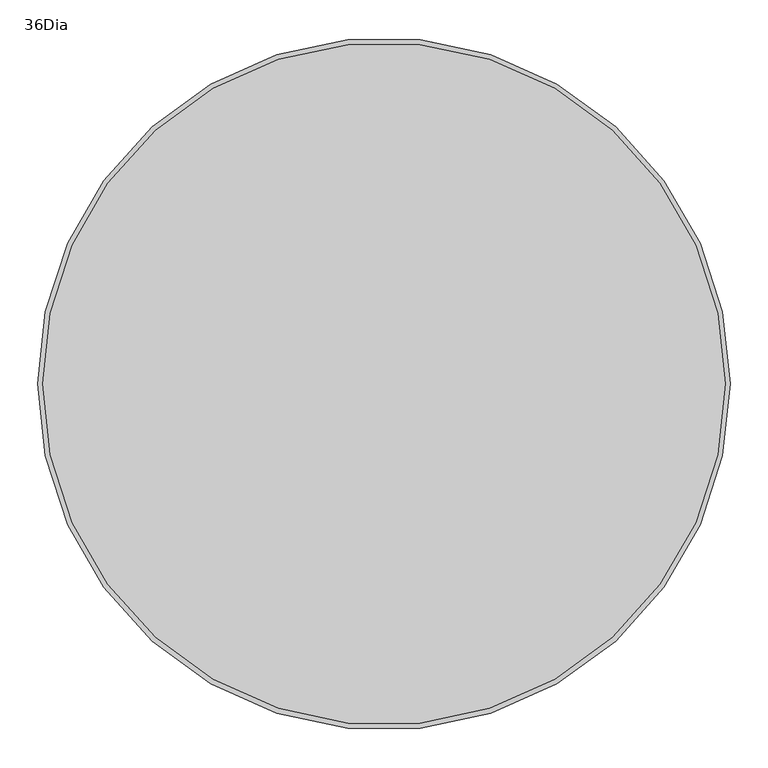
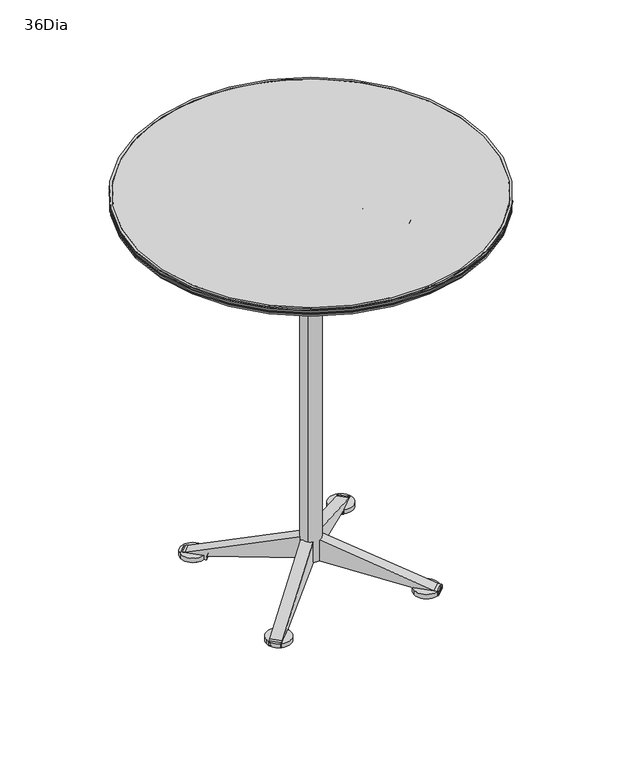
"""IFC4 building model written with IfcOpenShell, lengths in millimetres: furniture geometry, Coalesse_AM_Table_Conference_Ballet_Cafe : 36Dia."""

from ifc_helpers import new_model, si_unit, point, frame, frame_2d, origin, origin_with_axes, origin_2d, place, context, project, spatial, polyline, circle_curve, trimmed, segment, composite_curve, outline, extrude, source, transform, mapped, element, save
from ifc_brep_helpers import plane_surface, cylinder_surface, revolved_surface, advanced_brep


def furniture_36dia_0370dd3c(model_context):
    return source(origin(), model_context, "Body", "SolidModel", [
        extrude(outline(composite_curve([segment(polyline([(-37.2834365, 26.9246599), (-26.8661847, 37.3419116)]), True, "CONTINUOUS"), segment(trimmed(circle_curve(frame_2d((0.0745836, 10.4011432)), 38.1), [point((-26.8661847, 37.3419116))], [point((27.015352, 37.3419116))], False, "CARTESIAN"), True, "CONTINUOUS"), segment(polyline([(27.015352, 37.3419116), (38.9313594, 25.4259042)]), True, "CONTINUOUS"), segment(trimmed(circle_curve(frame_2d((13.4893466, -0.0161085)), 35.9804395), [point((38.9313594, 25.4259042))], [point((38.9313594, -25.4581212))], False, "CARTESIAN"), True, "CONTINUOUS"), segment(polyline([(38.9313594, -25.4581212), (27.015352, -37.3741286)]), True, "CONTINUOUS"), segment(trimmed(circle_curve(frame_2d((0.0745836, -10.4333602)), 38.1), [point((27.015352, -37.3741286))], [point((-26.8661847, -37.3741286))], False, "CARTESIAN"), True, "CONTINUOUS"), segment(polyline([(-26.8661847, -37.3741286), (-37.2834365, -26.9568769)]), True, "CONTINUOUS"), segment(trimmed(circle_curve(frame_2d((-10.3426681, -0.0161085)), 38.1), [point((-37.2834365, -26.9568769))], [point((-37.2834365, 26.9246599))], False, "CARTESIAN"), True, "CONTINUOUS")], self_intersect=False)), frame((0.0, 0.0, 942.7169247), z_axis=(0.0, 0.0, 1.0), x_axis=(1.0, 0.0, 0.0)), (0.0, 0.0, 1.0), 50.3081696),
        extrude(outline(composite_curve([segment(polyline([(-81.1409418, 49.3084633), (-49.5692956, 80.8801095)]), True, "CONTINUOUS"), segment(trimmed(circle_curve(frame_2d((0.0, 156.1108358)), 90.0931587), [point((-49.5692956, 80.8801095))], [point((49.871233, 81.0799264))], True, "CARTESIAN"), True, "CONTINUOUS"), segment(polyline([(49.871233, 81.0799264), (81.1309866, 49.8201728)]), True, "CONTINUOUS"), segment(trimmed(circle_curve(frame_2d((153.3620811, 0.0)), 87.7461145), [point((81.1309866, 49.8201728))], [point((81.7629451, -50.7241989))], True, "CARTESIAN"), True, "CONTINUOUS"), segment(polyline([(81.7629451, -50.7241989), (50.5881651, -81.8989789)]), True, "CONTINUOUS"), segment(trimmed(circle_curve(frame_2d((0.0, -154.7295322)), 88.6761069), [point((50.5881651, -81.8989789))], [point((-51.0893198, -82.2496499))], True, "CARTESIAN"), True, "CONTINUOUS"), segment(polyline([(-51.0893198, -82.2496499), (-82.3248918, -51.014078)]), True, "CONTINUOUS"), segment(trimmed(circle_curve(frame_2d((-153.9959305, 0.0)), 87.9725749), [point((-82.3248918, -51.014078))], [point((-81.1409418, 49.3084633))], True, "CARTESIAN"), True, "CONTINUOUS")], self_intersect=False)), frame((0.0, 0.0, 970.348073), z_axis=(0.0, 0.0, 1.0), x_axis=(1.0, 0.0, 0.0)), (0.0, 0.0, 1.0), 22.6770213),
        extrude(outline(composite_curve([segment(polyline([(114.3, 0.0), (115.2263736, -5.2537258)]), True, "CONTINUOUS"), segment(trimmed(circle_curve(frame_2d((109.4080133, -6.2796597)), 5.9081179), [point((115.2263736, -5.2537258))], [point((112.3666622, -11.3935872))], False, "CARTESIAN"), True, "CONTINUOUS"), segment(trimmed(circle_curve(frame_2d((-123.1481635, 395.6860679)), 470.2989248), [point((112.3666622, -11.3935872))], [point((-41.1216208, -67.404339))], False, "CARTESIAN"), True, "CONTINUOUS"), segment(trimmed(circle_curve(frame_2d((-123.1481635, 395.6860679)), 470.2989248), [point((-41.1216208, -67.404339))], [point((-66.3652264, -71.172344))], False, "CARTESIAN"), True, "CONTINUOUS"), segment(trimmed(circle_curve(frame_2d((-64.5887584, -85.7781231)), 14.7134164), [point((-66.3652264, -71.172344))], [point((-76.9601862, -77.8136775))], True, "CARTESIAN"), True, "CONTINUOUS"), segment(trimmed(circle_curve(frame_2d((-64.5887584, -85.7781231)), 14.7134164), [point((-76.9601862, -77.8136775))], [point((-79.0764227, -88.3456516))], True, "CARTESIAN"), True, "CONTINUOUS"), segment(trimmed(circle_curve(frame_2d((-82.4829244, -88.9493576)), 3.4595829), [point((-79.0764227, -88.3456516))], [point((-81.6450497, -92.3059452))], False, "CARTESIAN"), True, "CONTINUOUS"), segment(polyline([(-81.6450497, -92.3059452), (-160.9573766, -92.3059452)]), True, "CONTINUOUS"), segment(trimmed(circle_curve(frame_2d((-160.119502, -88.9493576)), 3.4595829), [point((-160.9573766, -92.3059452))], [point((-163.5260036, -88.3456516))], False, "CARTESIAN"), True, "CONTINUOUS"), segment(trimmed(circle_curve(frame_2d((-178.0136679, -85.7781231)), 14.7134164), [point((-163.5260036, -88.3456516))], [point((-165.6422401, -77.8136775))], True, "CARTESIAN"), True, "CONTINUOUS"), segment(trimmed(circle_curve(frame_2d((-178.0136679, -85.7781231)), 14.7134164), [point((-165.6422401, -77.8136775))], [point((-176.2372, -71.172344))], True, "CARTESIAN"), True, "CONTINUOUS"), segment(trimmed(circle_curve(frame_2d((-119.4542628, 395.6860679)), 470.2989248), [point((-176.2372, -71.172344))], [point((-201.4808056, -67.404339))], False, "CARTESIAN"), True, "CONTINUOUS"), segment(trimmed(circle_curve(frame_2d((-119.4542628, 395.6860679)), 470.2989248), [point((-201.4808056, -67.404339))], [point((-354.9690885, -11.3935872))], False, "CARTESIAN"), True, "CONTINUOUS"), segment(trimmed(circle_curve(frame_2d((-352.0104397, -6.2796597)), 5.9081179), [point((-354.9690885, -11.3935872))], [point((-357.8288, -5.2537258))], False, "CARTESIAN"), True, "CONTINUOUS"), segment(polyline([(-357.8288, -5.2537258), (-356.9024264, 0.0), (-242.6024263, 0.0)]), True, "CONTINUOUS"), segment(trimmed(circle_curve(frame_2d((-184.587638, 17.529313)), 60.6052183), [point((-242.6024263, 0.0))], [point((-195.8254097, -42.0249058))], True, "CARTESIAN"), True, "CONTINUOUS"), segment(trimmed(circle_curve(frame_2d((-133.7603939, 286.8867003)), 334.7161645), [point((-195.8254097, -42.0249058))], [point((-152.4418907, -47.3077229))], True, "CARTESIAN"), True, "CONTINUOUS"), segment(trimmed(circle_curve(frame_2d((-151.7916573, -35.6756582)), 11.6502245), [point((-152.4418907, -47.3077229))], [point((-142.023608, -42.0249058))], True, "CARTESIAN"), True, "CONTINUOUS"), segment(polyline([(-142.023608, -42.0249058), (-100.5788184, -42.0249058)]), True, "CONTINUOUS"), segment(trimmed(circle_curve(frame_2d((-90.810769, -35.6756582)), 11.6502245), [point((-100.5788184, -42.0249058))], [point((-90.1605356, -47.3077229))], True, "CARTESIAN"), True, "CONTINUOUS"), segment(trimmed(circle_curve(frame_2d((-108.8420324, 286.8867003)), 334.7161645), [point((-90.1605356, -47.3077229))], [point((-46.7770167, -42.0249058))], True, "CARTESIAN"), True, "CONTINUOUS"), segment(trimmed(circle_curve(frame_2d((-58.0147883, 17.529313)), 60.6052183), [point((-46.7770167, -42.0249058))], [point((0.0, 0.0))], True, "CARTESIAN"), True, "CONTINUOUS"), segment(polyline([(0.0, 0.0), (114.3, 0.0)]), True, "CONTINUOUS")], self_intersect=False)), frame((-101.4283173, 70.1175035, 1035.05), z_axis=(0.7071067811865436, 0.7071067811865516, 0.0), x_axis=(-0.7071067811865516, 0.7071067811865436, 0.0)), (0.0, 0.0, 1.0), 44.2801776),
        extrude(outline(composite_curve([segment(polyline([(114.3, 0.0), (115.2263736, -5.2537258)]), True, "CONTINUOUS"), segment(trimmed(circle_curve(frame_2d((109.4080133, -6.2796597)), 5.9081179), [point((115.2263736, -5.2537258))], [point((112.3666622, -11.3935872))], False, "CARTESIAN"), True, "CONTINUOUS"), segment(trimmed(circle_curve(frame_2d((-123.1481635, 395.6860679)), 470.2989248), [point((112.3666622, -11.3935872))], [point((-41.1216208, -67.404339))], False, "CARTESIAN"), True, "CONTINUOUS"), segment(trimmed(circle_curve(frame_2d((-123.1481635, 395.6860679)), 470.2989248), [point((-41.1216208, -67.404339))], [point((-66.3652264, -71.172344))], False, "CARTESIAN"), True, "CONTINUOUS"), segment(trimmed(circle_curve(frame_2d((-64.5887584, -85.7781231)), 14.7134164), [point((-66.3652264, -71.172344))], [point((-76.9601862, -77.8136775))], True, "CARTESIAN"), True, "CONTINUOUS"), segment(trimmed(circle_curve(frame_2d((-64.5887584, -85.7781231)), 14.7134164), [point((-76.9601862, -77.8136775))], [point((-79.0764227, -88.3456516))], True, "CARTESIAN"), True, "CONTINUOUS"), segment(trimmed(circle_curve(frame_2d((-82.4829244, -88.9493576)), 3.4595829), [point((-79.0764227, -88.3456516))], [point((-81.6450497, -92.3059452))], False, "CARTESIAN"), True, "CONTINUOUS"), segment(polyline([(-81.6450497, -92.3059452), (-160.9573766, -92.3059452)]), True, "CONTINUOUS"), segment(trimmed(circle_curve(frame_2d((-160.119502, -88.9493576)), 3.4595829), [point((-160.9573766, -92.3059452))], [point((-163.5260036, -88.3456516))], False, "CARTESIAN"), True, "CONTINUOUS"), segment(trimmed(circle_curve(frame_2d((-178.0136679, -85.7781231)), 14.7134164), [point((-163.5260036, -88.3456516))], [point((-165.6422401, -77.8136775))], True, "CARTESIAN"), True, "CONTINUOUS"), segment(trimmed(circle_curve(frame_2d((-178.0136679, -85.7781231)), 14.7134164), [point((-165.6422401, -77.8136775))], [point((-176.2372, -71.172344))], True, "CARTESIAN"), True, "CONTINUOUS"), segment(trimmed(circle_curve(frame_2d((-119.4542628, 395.6860679)), 470.2989248), [point((-176.2372, -71.172344))], [point((-201.4808056, -67.404339))], False, "CARTESIAN"), True, "CONTINUOUS"), segment(trimmed(circle_curve(frame_2d((-119.4542628, 395.6860679)), 470.2989248), [point((-201.4808056, -67.404339))], [point((-354.9690885, -11.3935872))], False, "CARTESIAN"), True, "CONTINUOUS"), segment(trimmed(circle_curve(frame_2d((-352.0104397, -6.2796597)), 5.9081179), [point((-354.9690885, -11.3935872))], [point((-357.8288, -5.2537258))], False, "CARTESIAN"), True, "CONTINUOUS"), segment(polyline([(-357.8288, -5.2537258), (-356.9024264, 0.0), (-242.6024263, 0.0)]), True, "CONTINUOUS"), segment(trimmed(circle_curve(frame_2d((-184.587638, 17.529313)), 60.6052183), [point((-242.6024263, 0.0))], [point((-195.8254097, -42.0249058))], True, "CARTESIAN"), True, "CONTINUOUS"), segment(trimmed(circle_curve(frame_2d((-133.7603939, 286.8867003)), 334.7161645), [point((-195.8254097, -42.0249058))], [point((-152.4418907, -47.3077229))], True, "CARTESIAN"), True, "CONTINUOUS"), segment(trimmed(circle_curve(frame_2d((-151.7916573, -35.6756582)), 11.6502245), [point((-152.4418907, -47.3077229))], [point((-142.023608, -42.0249058))], True, "CARTESIAN"), True, "CONTINUOUS"), segment(polyline([(-142.023608, -42.0249058), (-100.5788184, -42.0249058)]), True, "CONTINUOUS"), segment(trimmed(circle_curve(frame_2d((-90.810769, -35.6756582)), 11.6502245), [point((-100.5788184, -42.0249058))], [point((-90.1605356, -47.3077229))], True, "CARTESIAN"), True, "CONTINUOUS"), segment(trimmed(circle_curve(frame_2d((-108.8420324, 286.8867003)), 334.7161645), [point((-90.1605356, -47.3077229))], [point((-46.7770167, -42.0249058))], True, "CARTESIAN"), True, "CONTINUOUS"), segment(trimmed(circle_curve(frame_2d((-58.0147883, 17.529313)), 60.6052183), [point((-46.7770167, -42.0249058))], [point((0.0, 0.0))], True, "CARTESIAN"), True, "CONTINUOUS"), segment(polyline([(0.0, 0.0), (114.3, 0.0)]), True, "CONTINUOUS")], self_intersect=False)), frame((-70.1175035, -101.4283173, 1035.05), z_axis=(-0.707106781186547, 0.7071067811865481, 0.0), x_axis=(-0.7071067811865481, -0.707106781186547, 0.0)), (0.0, 0.0, 1.0), 44.2801776),
        extrude(outline(composite_curve([segment(trimmed(circle_curve(frame_2d((-194.715793, 197.3207687)), 31.75), [point((-226.465793, 197.3207687))], [point((-162.965793, 197.3207687))], False, "CARTESIAN"), True, "CONTINUOUS"), segment(trimmed(circle_curve(frame_2d((-194.715793, 197.3207687)), 31.75), [point((-162.965793, 197.3207687))], [point((-226.465793, 197.3207687))], False, "CARTESIAN"), True, "CONTINUOUS")], self_intersect=False)), frame((0.0, 0.0, 4.2904479), z_axis=(0.0, 0.0, 1.0), x_axis=(1.0, 0.0, 0.0)), (0.0, 0.0, 1.0), 11.3833531),
        extrude(outline(composite_curve([segment(trimmed(circle_curve(frame_2d((191.7194605, 196.5270187)), 31.75), [point((159.9694605, 196.5270187))], [point((223.4694605, 196.5270187))], False, "CARTESIAN"), True, "CONTINUOUS"), segment(trimmed(circle_curve(frame_2d((191.7194605, 196.5270187)), 31.75), [point((223.4694605, 196.5270187))], [point((159.9694605, 196.5270187))], False, "CARTESIAN"), True, "CONTINUOUS")], self_intersect=False)), frame((0.0, 0.0, 4.2904479), z_axis=(0.0, 0.0, 1.0), x_axis=(1.0, 0.0, 0.0)), (0.0, 0.0, 1.0), 11.3833531),
        extrude(outline(composite_curve([segment(trimmed(circle_curve(frame_2d((-194.715793, -191.2787692)), 31.75), [point((-226.465793, -191.2787692))], [point((-162.965793, -191.2787692))], False, "CARTESIAN"), True, "CONTINUOUS"), segment(trimmed(circle_curve(frame_2d((-194.715793, -191.2787692)), 31.75), [point((-162.965793, -191.2787692))], [point((-226.465793, -191.2787692))], False, "CARTESIAN"), True, "CONTINUOUS")], self_intersect=False)), frame((0.0, 0.0, 4.2904479), z_axis=(0.0, 0.0, 1.0), x_axis=(1.0, 0.0, 0.0)), (0.0, 0.0, 1.0), 11.3833531),
        extrude(outline(composite_curve([segment(trimmed(circle_curve(frame_2d((191.7194605, -190.4850192)), 31.75), [point((159.9694605, -190.4850192))], [point((223.4694605, -190.4850192))], False, "CARTESIAN"), True, "CONTINUOUS"), segment(trimmed(circle_curve(frame_2d((191.7194605, -190.4850192)), 31.75), [point((223.4694605, -190.4850192))], [point((159.9694605, -190.4850192))], False, "CARTESIAN"), True, "CONTINUOUS")], self_intersect=False)), frame((0.0, 0.0, 4.2904479), z_axis=(0.0, 0.0, 1.0), x_axis=(1.0, 0.0, 0.0)), (0.0, 0.0, 1.0), 11.3833531),
        extrude(outline(composite_curve([segment(polyline([(-57.749273, 0.0), (0.0, 0.0), (-90.9931074, -269.8641919), (-92.3030079, -279.1846177)]), True, "CONTINUOUS"), segment(trimmed(circle_curve(frame_2d((-93.9206951, -278.9572666)), 1.6335852), [point((-92.3030079, -279.1846177))], [point((-93.8206014, -280.5877823))], False, "CARTESIAN"), True, "CONTINUOUS"), segment(trimmed(circle_curve(frame_2d((-95.8523928, -247.4901147)), 33.1599725), [point((-93.8206014, -280.5877823))], [point((-101.682402, -280.1335639))], False, "CARTESIAN"), True, "CONTINUOUS"), segment(trimmed(circle_curve(frame_2d((-101.2796868, -277.8786768)), 2.2905666), [point((-101.682402, -280.1335639))], [point((-103.5674671, -277.7657306))], False, "CARTESIAN"), True, "CONTINUOUS"), segment(polyline([(-103.5674671, -277.7657306), (-103.5674671, -222.4322812)]), True, "CONTINUOUS"), segment(trimmed(circle_curve(frame_2d((-100.6154331, -221.9840334)), 2.9858719), [point((-103.5674671, -222.4322812))], [point((-100.2998684, -219.0148838))], False, "CARTESIAN"), True, "CONTINUOUS"), segment(trimmed(circle_curve(frame_2d((-98.3053249, -200.2482144)), 18.872363), [point((-100.2998684, -219.0148838))], [point((-94.5016021, -218.7332835))], True, "CARTESIAN"), True, "CONTINUOUS"), segment(trimmed(circle_curve(frame_2d((-95.1495986, -215.5841949)), 3.2150673), [point((-94.5016021, -218.7332835))], [point((-91.9741141, -216.0871422))], True, "CARTESIAN"), True, "CONTINUOUS"), segment(polyline([(-91.9741141, -216.0871422), (-57.749273, 0.0)]), True, "CONTINUOUS")], self_intersect=False)), frame((-23.5273141, 7.7834997, 107.857915), z_axis=(0.7071067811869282, 0.707106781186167, 0.0), x_axis=(0.0, 0.0, 1.0)), (0.0, 0.0, 1.0), 29.2174476),
        extrude(outline(composite_curve([segment(polyline([(-57.749273, 44.2801775), (-91.9741141, 260.3673198)]), True, "CONTINUOUS"), segment(trimmed(circle_curve(frame_2d((-95.1495986, 259.8643724)), 3.2150673), [point((-91.9741141, 260.3673198))], [point((-94.5016021, 263.013461))], True, "CARTESIAN"), True, "CONTINUOUS"), segment(trimmed(circle_curve(frame_2d((-98.3053249, 244.5283919)), 18.872363), [point((-94.5016021, 263.013461))], [point((-100.2998684, 263.2950613))], True, "CARTESIAN"), True, "CONTINUOUS"), segment(trimmed(circle_curve(frame_2d((-100.6154331, 266.2642109)), 2.9858719), [point((-100.2998684, 263.2950613))], [point((-103.5674671, 266.7124587))], False, "CARTESIAN"), True, "CONTINUOUS"), segment(polyline([(-103.5674671, 266.7124587), (-103.5674671, 322.0459081)]), True, "CONTINUOUS"), segment(trimmed(circle_curve(frame_2d((-101.2796868, 322.1588543)), 2.2905666), [point((-103.5674671, 322.0459081))], [point((-101.682402, 324.4137415))], False, "CARTESIAN"), True, "CONTINUOUS"), segment(trimmed(circle_curve(frame_2d((-95.8523928, 291.7702923)), 33.1599725), [point((-101.682402, 324.4137415))], [point((-93.8206014, 324.8679598))], False, "CARTESIAN"), True, "CONTINUOUS"), segment(trimmed(circle_curve(frame_2d((-93.9206951, 323.2374442)), 1.6335852), [point((-93.8206014, 324.8679598))], [point((-92.3030079, 323.4647953))], False, "CARTESIAN"), True, "CONTINUOUS"), segment(polyline([(-92.3030079, 323.4647953), (-90.9931074, 314.1443694), (0.0, 44.2801775), (-57.749273, 44.2801775)]), True, "CONTINUOUS")], self_intersect=False)), frame((-23.5273141, 7.7834997, 107.857915), z_axis=(0.7071067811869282, 0.707106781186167, 0.0), x_axis=(0.0, 0.0, 1.0)), (0.0, 0.0, 1.0), 29.2174476),
        extrude(outline(composite_curve([segment(polyline([(-57.749273, 0.0), (0.0, 0.0), (-90.9931074, -269.8641919), (-92.3030079, -279.1846177)]), True, "CONTINUOUS"), segment(trimmed(circle_curve(frame_2d((-93.9206951, -278.9572666)), 1.6335852), [point((-92.3030079, -279.1846177))], [point((-93.8206014, -280.5877823))], False, "CARTESIAN"), True, "CONTINUOUS"), segment(trimmed(circle_curve(frame_2d((-95.8523928, -247.4901147)), 33.1599725), [point((-93.8206014, -280.5877823))], [point((-101.682402, -280.1335639))], False, "CARTESIAN"), True, "CONTINUOUS"), segment(trimmed(circle_curve(frame_2d((-101.2796868, -277.8786768)), 2.2905666), [point((-101.682402, -280.1335639))], [point((-103.5674671, -277.7657306))], False, "CARTESIAN"), True, "CONTINUOUS"), segment(polyline([(-103.5674671, -277.7657306), (-103.5674671, -222.4322812)]), True, "CONTINUOUS"), segment(trimmed(circle_curve(frame_2d((-100.6154331, -221.9840334)), 2.9858719), [point((-103.5674671, -222.4322812))], [point((-100.2998684, -219.0148838))], False, "CARTESIAN"), True, "CONTINUOUS"), segment(trimmed(circle_curve(frame_2d((-98.3053249, -200.2482144)), 18.872363), [point((-100.2998684, -219.0148838))], [point((-94.5016021, -218.7332835))], True, "CARTESIAN"), True, "CONTINUOUS"), segment(trimmed(circle_curve(frame_2d((-95.1495986, -215.5841949)), 3.2150673), [point((-94.5016021, -218.7332835))], [point((-91.9741141, -216.0871422))], True, "CARTESIAN"), True, "CONTINUOUS"), segment(polyline([(-91.9741141, -216.0871422), (-57.749273, 0.0)]), True, "CONTINUOUS")], self_intersect=False)), frame((-7.7834997, -23.5273141, 107.857915), z_axis=(-0.7071067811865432, 0.7071067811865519, 0.0), x_axis=(0.0, 0.0, 1.0)), (0.0, 0.0, 1.0), 29.2174476),
        extrude(outline(composite_curve([segment(polyline([(-57.749273, 44.2801775), (-91.9741141, 260.3673198)]), True, "CONTINUOUS"), segment(trimmed(circle_curve(frame_2d((-95.1495986, 259.8643724)), 3.2150673), [point((-91.9741141, 260.3673198))], [point((-94.5016021, 263.013461))], True, "CARTESIAN"), True, "CONTINUOUS"), segment(trimmed(circle_curve(frame_2d((-98.3053249, 244.5283919)), 18.872363), [point((-94.5016021, 263.013461))], [point((-100.2998684, 263.2950613))], True, "CARTESIAN"), True, "CONTINUOUS"), segment(trimmed(circle_curve(frame_2d((-100.6154331, 266.2642109)), 2.9858719), [point((-100.2998684, 263.2950613))], [point((-103.5674671, 266.7124587))], False, "CARTESIAN"), True, "CONTINUOUS"), segment(polyline([(-103.5674671, 266.7124587), (-103.5674671, 322.0459081)]), True, "CONTINUOUS"), segment(trimmed(circle_curve(frame_2d((-101.2796868, 322.1588543)), 2.2905666), [point((-103.5674671, 322.0459081))], [point((-101.682402, 324.4137415))], False, "CARTESIAN"), True, "CONTINUOUS"), segment(trimmed(circle_curve(frame_2d((-95.8523928, 291.7702923)), 33.1599725), [point((-101.682402, 324.4137415))], [point((-93.8206014, 324.8679598))], False, "CARTESIAN"), True, "CONTINUOUS"), segment(trimmed(circle_curve(frame_2d((-93.9206951, 323.2374442)), 1.6335852), [point((-93.8206014, 324.8679598))], [point((-92.3030079, 323.4647953))], False, "CARTESIAN"), True, "CONTINUOUS"), segment(polyline([(-92.3030079, 323.4647953), (-90.9931074, 314.1443694), (0.0, 44.2801775), (-57.749273, 44.2801775)]), True, "CONTINUOUS")], self_intersect=False)), frame((-7.7834997, -23.5273141, 107.857915), z_axis=(-0.7071067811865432, 0.7071067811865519, 0.0), x_axis=(0.0, 0.0, 1.0)), (0.0, 0.0, 1.0), 29.2174476),
        extrude(outline(composite_curve([segment(polyline([(-57.749273, 0.0), (0.0, 0.0), (-90.9931074, -269.8641919), (-92.3030079, -279.1846177)]), True, "CONTINUOUS"), segment(trimmed(circle_curve(frame_2d((-93.9206951, -278.9572666)), 1.6335852), [point((-92.3030079, -279.1846177))], [point((-93.8206014, -280.5877823))], False, "CARTESIAN"), True, "CONTINUOUS"), segment(trimmed(circle_curve(frame_2d((-95.8523928, -247.4901147)), 33.1599725), [point((-93.8206014, -280.5877823))], [point((-101.682402, -280.1335639))], False, "CARTESIAN"), True, "CONTINUOUS"), segment(trimmed(circle_curve(frame_2d((-101.2796868, -277.8786768)), 2.2905666), [point((-101.682402, -280.1335639))], [point((-103.5674671, -277.7657306))], False, "CARTESIAN"), True, "CONTINUOUS"), segment(polyline([(-103.5674671, -277.7657306), (-103.5674671, -222.4322812)]), True, "CONTINUOUS"), segment(trimmed(circle_curve(frame_2d((-100.6154331, -221.9840334)), 2.9858719), [point((-103.5674671, -222.4322812))], [point((-100.2998684, -219.0148838))], False, "CARTESIAN"), True, "CONTINUOUS"), segment(trimmed(circle_curve(frame_2d((-98.3053249, -200.2482144)), 18.872363), [point((-100.2998684, -219.0148838))], [point((-94.5016021, -218.7332835))], True, "CARTESIAN"), True, "CONTINUOUS"), segment(trimmed(circle_curve(frame_2d((-95.1495986, -215.5841949)), 3.2150673), [point((-94.5016021, -218.7332835))], [point((-91.9741141, -216.0871422))], True, "CARTESIAN"), True, "CONTINUOUS"), segment(polyline([(-91.9741141, -216.0871422), (-57.749273, 0.0)]), True, "CONTINUOUS")], self_intersect=False)), frame((-23.5273141, 7.7834997, 107.857915), z_axis=(0.7071067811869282, 0.707106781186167, 0.0), x_axis=(0.0, 0.0, 1.0)), (0.0, 0.0, 1.0), 29.2174476),
        extrude(outline(composite_curve([segment(polyline([(-57.749273, 44.2801775), (-91.9741141, 260.3673198)]), True, "CONTINUOUS"), segment(trimmed(circle_curve(frame_2d((-95.1495986, 259.8643724)), 3.2150673), [point((-91.9741141, 260.3673198))], [point((-94.5016021, 263.013461))], True, "CARTESIAN"), True, "CONTINUOUS"), segment(trimmed(circle_curve(frame_2d((-98.3053249, 244.5283919)), 18.872363), [point((-94.5016021, 263.013461))], [point((-100.2998684, 263.2950613))], True, "CARTESIAN"), True, "CONTINUOUS"), segment(trimmed(circle_curve(frame_2d((-100.6154331, 266.2642109)), 2.9858719), [point((-100.2998684, 263.2950613))], [point((-103.5674671, 266.7124587))], False, "CARTESIAN"), True, "CONTINUOUS"), segment(polyline([(-103.5674671, 266.7124587), (-103.5674671, 322.0459081)]), True, "CONTINUOUS"), segment(trimmed(circle_curve(frame_2d((-101.2796868, 322.1588543)), 2.2905666), [point((-103.5674671, 322.0459081))], [point((-101.682402, 324.4137415))], False, "CARTESIAN"), True, "CONTINUOUS"), segment(trimmed(circle_curve(frame_2d((-95.8523928, 291.7702923)), 33.1599725), [point((-101.682402, 324.4137415))], [point((-93.8206014, 324.8679598))], False, "CARTESIAN"), True, "CONTINUOUS"), segment(trimmed(circle_curve(frame_2d((-93.9206951, 323.2374442)), 1.6335852), [point((-93.8206014, 324.8679598))], [point((-92.3030079, 323.4647953))], False, "CARTESIAN"), True, "CONTINUOUS"), segment(polyline([(-92.3030079, 323.4647953), (-90.9931074, 314.1443694), (0.0, 44.2801775), (-57.749273, 44.2801775)]), True, "CONTINUOUS")], self_intersect=False)), frame((-23.5273141, 7.7834997, 107.857915), z_axis=(0.7071067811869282, 0.707106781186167, 0.0), x_axis=(0.0, 0.0, 1.0)), (0.0, 0.0, 1.0), 29.2174476),
        extrude(outline(composite_curve([segment(polyline([(-57.749273, 0.0), (0.0, 0.0), (-90.9931074, -269.8641919), (-92.3030079, -279.1846177)]), True, "CONTINUOUS"), segment(trimmed(circle_curve(frame_2d((-93.9206951, -278.9572666)), 1.6335852), [point((-92.3030079, -279.1846177))], [point((-93.8206014, -280.5877823))], False, "CARTESIAN"), True, "CONTINUOUS"), segment(trimmed(circle_curve(frame_2d((-95.8523928, -247.4901147)), 33.1599725), [point((-93.8206014, -280.5877823))], [point((-101.682402, -280.1335639))], False, "CARTESIAN"), True, "CONTINUOUS"), segment(trimmed(circle_curve(frame_2d((-101.2796868, -277.8786768)), 2.2905666), [point((-101.682402, -280.1335639))], [point((-103.5674671, -277.7657306))], False, "CARTESIAN"), True, "CONTINUOUS"), segment(polyline([(-103.5674671, -277.7657306), (-103.5674671, -222.4322812)]), True, "CONTINUOUS"), segment(trimmed(circle_curve(frame_2d((-100.6154331, -221.9840334)), 2.9858719), [point((-103.5674671, -222.4322812))], [point((-100.2998684, -219.0148838))], False, "CARTESIAN"), True, "CONTINUOUS"), segment(trimmed(circle_curve(frame_2d((-98.3053249, -200.2482144)), 18.872363), [point((-100.2998684, -219.0148838))], [point((-94.5016021, -218.7332835))], True, "CARTESIAN"), True, "CONTINUOUS"), segment(trimmed(circle_curve(frame_2d((-95.1495986, -215.5841949)), 3.2150673), [point((-94.5016021, -218.7332835))], [point((-91.9741141, -216.0871422))], True, "CARTESIAN"), True, "CONTINUOUS"), segment(polyline([(-91.9741141, -216.0871422), (-57.749273, 0.0)]), True, "CONTINUOUS")], self_intersect=False)), frame((-7.7834997, -23.5273141, 107.857915), z_axis=(-0.7071067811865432, 0.7071067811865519, 0.0), x_axis=(0.0, 0.0, 1.0)), (0.0, 0.0, 1.0), 29.2174476),
        extrude(outline(composite_curve([segment(polyline([(-57.749273, 44.2801775), (-91.9741141, 260.3673198)]), True, "CONTINUOUS"), segment(trimmed(circle_curve(frame_2d((-95.1495986, 259.8643724)), 3.2150673), [point((-91.9741141, 260.3673198))], [point((-94.5016021, 263.013461))], True, "CARTESIAN"), True, "CONTINUOUS"), segment(trimmed(circle_curve(frame_2d((-98.3053249, 244.5283919)), 18.872363), [point((-94.5016021, 263.013461))], [point((-100.2998684, 263.2950613))], True, "CARTESIAN"), True, "CONTINUOUS"), segment(trimmed(circle_curve(frame_2d((-100.6154331, 266.2642109)), 2.9858719), [point((-100.2998684, 263.2950613))], [point((-103.5674671, 266.7124587))], False, "CARTESIAN"), True, "CONTINUOUS"), segment(polyline([(-103.5674671, 266.7124587), (-103.5674671, 322.0459081)]), True, "CONTINUOUS"), segment(trimmed(circle_curve(frame_2d((-101.2796868, 322.1588543)), 2.2905666), [point((-103.5674671, 322.0459081))], [point((-101.682402, 324.4137415))], False, "CARTESIAN"), True, "CONTINUOUS"), segment(trimmed(circle_curve(frame_2d((-95.8523928, 291.7702923)), 33.1599725), [point((-101.682402, 324.4137415))], [point((-93.8206014, 324.8679598))], False, "CARTESIAN"), True, "CONTINUOUS"), segment(trimmed(circle_curve(frame_2d((-93.9206951, 323.2374442)), 1.6335852), [point((-93.8206014, 324.8679598))], [point((-92.3030079, 323.4647953))], False, "CARTESIAN"), True, "CONTINUOUS"), segment(polyline([(-92.3030079, 323.4647953), (-90.9931074, 314.1443694), (0.0, 44.2801775), (-57.749273, 44.2801775)]), True, "CONTINUOUS")], self_intersect=False)), frame((-7.7834997, -23.5273141, 107.857915), z_axis=(-0.7071067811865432, 0.7071067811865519, 0.0), x_axis=(0.0, 0.0, 1.0)), (0.0, 0.0, 1.0), 29.2174476),
        extrude(outline(composite_curve([segment(trimmed(circle_curve(frame_2d((192.2336051, -190.6461051)), 25.4), [point((174.2730929, -208.6066174))], [point((210.1941174, -172.6855929))], False, "CARTESIAN"), True, "CONTINUOUS"), segment(trimmed(circle_curve(frame_2d((192.2336051, -190.6461051)), 25.4), [point((210.1941174, -172.6855929))], [point((174.2730929, -208.6066174))], False, "CARTESIAN"), True, "CONTINUOUS")], self_intersect=False)), origin_with_axes(), (0.0, 0.0, 1.0), 4.2904479),
        extrude(outline(composite_curve([segment(trimmed(circle_curve(frame_2d((192.2336051, 196.9961051)), 25.4), [point((174.2730929, 179.0355929))], [point((210.1941174, 214.9566174))], False, "CARTESIAN"), True, "CONTINUOUS"), segment(trimmed(circle_curve(frame_2d((192.2336051, 196.9961051)), 25.4), [point((210.1941174, 214.9566174))], [point((174.2730929, 179.0355929))], False, "CARTESIAN"), True, "CONTINUOUS")], self_intersect=False)), origin_with_axes(), (0.0, 0.0, 1.0), 4.2904479),
        extrude(outline(composite_curve([segment(trimmed(circle_curve(frame_2d((-194.6148551, -191.4398551)), 25.4), [point((-212.5753674, -209.4003674))], [point((-176.6543429, -173.4793429))], False, "CARTESIAN"), True, "CONTINUOUS"), segment(trimmed(circle_curve(frame_2d((-194.6148551, -191.4398551)), 25.4), [point((-176.6543429, -173.4793429))], [point((-212.5753674, -209.4003674))], False, "CARTESIAN"), True, "CONTINUOUS")], self_intersect=False)), origin_with_axes(), (0.0, 0.0, 1.0), 4.2904479),
        extrude(outline(composite_curve([segment(trimmed(circle_curve(frame_2d((-194.2179801, 197.3929801)), 25.4), [point((-212.1784924, 179.4324679))], [point((-176.2574679, 215.3534924))], False, "CARTESIAN"), True, "CONTINUOUS"), segment(trimmed(circle_curve(frame_2d((-194.2179801, 197.3929801)), 25.4), [point((-176.2574679, 215.3534924))], [point((-212.1784924, 179.4324679))], False, "CARTESIAN"), True, "CONTINUOUS")], self_intersect=False)), origin_with_axes(), (0.0, 0.0, 1.0), 4.2904479),
        extrude(outline(composite_curve([segment(trimmed(circle_curve(frame_2d((1.04e-05, -1.04e-05)), 25.3999999), [point((-17.9605018, -17.9605225))], [point((17.9605225, 17.9605018))], False, "CARTESIAN"), True, "CONTINUOUS"), segment(trimmed(circle_curve(frame_2d((1.04e-05, -1.04e-05)), 25.3999999), [point((17.9605225, 17.9605018))], [point((-17.9605018, -17.9605225))], False, "CARTESIAN"), True, "CONTINUOUS")], self_intersect=False)), frame((0.0, 0.0, 50.8000015), z_axis=(0.0, 0.0, 1.0), x_axis=(1.0, 0.0, 0.0)), (0.0, 0.0, 1.0), 891.9440533),
        advanced_brep(
        [(-450.85, 0.0, 1054.1), (450.85, 0.0, 1054.1), (450.85, 0.0, 1035.05), (-450.85, 0.0, 1035.05), (-457.3841036, 0.0, 1050.9467693), (457.3841036, 0.0, 1050.9467693), (457.3841036, 0.0, 1054.1), (-457.3841036, 0.0, 1054.1), (-454.2316012, 0.0, 1049.340489), (454.2316012, 0.0, 1049.340489), (-457.3531952, 0.0, 1047.7499574), (457.3531952, 0.0, 1047.7499574), (-454.2274029, 0.0, 1046.1572867), (454.2274029, 0.0, 1046.1572867), (-457.378347, 0.0, 1044.5518005), (457.378347, 0.0, 1044.5518005), (-454.2247106, 0.0, 1043.0136693), (454.2247106, 0.0, 1043.0136693), (-457.4010759, 0.0, 1041.4246637), (457.4010759, 0.0, 1041.4246637), (-454.2312403, 0.0, 1039.8095518), (454.2312403, 0.0, 1039.8095518), (-457.4010759, 0.0, 1038.2238127), (457.4010759, 0.0, 1038.2238127), (-457.4010759, 0.0, 1035.05), (457.4010759, 0.0, 1035.05)],
        [
            (0, 1, circle_curve(frame((0.0, 0.0, 1054.1), z_axis=(0.0, 0.0, 1.0), x_axis=(1.0, 0.0, 0.0)), 450.85)),
            (1, 2),
            (2, 3, circle_curve(frame((0.0, 0.0, 1035.05), z_axis=(0.0, 0.0, -1.0), x_axis=(1.0, 0.0, 0.0)), 450.85)),
            (3, 0),
            (4, 5, circle_curve(frame((0.0, 0.0, 1050.9467693), z_axis=(0.0, 0.0, 1.0), x_axis=(1.0, 0.0, 0.0)), 457.3841036)),
            (5, 6),
            (6, 7, circle_curve(frame((0.0, 0.0, 1054.1), z_axis=(0.0, 0.0, -1.0), x_axis=(1.0, 0.0, 0.0)), 457.3841036)),
            (7, 4),
            (8, 9, circle_curve(frame((0.0, 0.0, 1049.340489), z_axis=(0.0, 0.0, 1.0), x_axis=(1.0, 0.0, 0.0)), 454.2316012)),
            (9, 5),
            (4, 8),
            (10, 11, circle_curve(frame((0.0, 0.0, 1047.7499574), z_axis=(0.0, 0.0, 1.0), x_axis=(1.0, 0.0, 0.0)), 457.3531952)),
            (11, 9),
            (8, 10),
            (12, 13, circle_curve(frame((0.0, 0.0, 1046.1572867), z_axis=(0.0, 0.0, 1.0), x_axis=(1.0, 0.0, 0.0)), 454.2274029)),
            (13, 11),
            (10, 12),
            (14, 15, circle_curve(frame((0.0, 0.0, 1044.5518005), z_axis=(0.0, 0.0, 1.0), x_axis=(1.0, 0.0, 0.0)), 457.378347)),
            (15, 13),
            (12, 14),
            (16, 17, circle_curve(frame((0.0, 0.0, 1043.0136693), z_axis=(0.0, 0.0, 1.0), x_axis=(1.0, 0.0, 0.0)), 454.2247106)),
            (17, 15),
            (14, 16),
            (18, 19, circle_curve(frame((0.0, 0.0, 1041.4246637), z_axis=(0.0, 0.0, 1.0), x_axis=(1.0, 0.0, 0.0)), 457.4010759)),
            (19, 17),
            (16, 18),
            (20, 21, circle_curve(frame((0.0, 0.0, 1039.8095518), z_axis=(0.0, 0.0, 1.0), x_axis=(1.0, 0.0, 0.0)), 454.2312403)),
            (21, 19),
            (18, 20),
            (22, 23, circle_curve(frame((0.0, 0.0, 1038.2238127), z_axis=(0.0, 0.0, 1.0), x_axis=(1.0, 0.0, 0.0)), 457.4010759)),
            (23, 21),
            (20, 22),
            (24, 25, circle_curve(frame((0.0, 0.0, 1035.05), z_axis=(0.0, 0.0, 1.0), x_axis=(1.0, 0.0, 0.0)), 457.4010759)),
            (25, 23),
            (22, 24),
            (1, 0, circle_curve(frame((0.0, 0.0, 1054.1), z_axis=(0.0, 0.0, 1.0), x_axis=(-1.0, 0.0, 0.0)), 450.85)),
            (3, 2, circle_curve(frame((0.0, 0.0, 1035.05), z_axis=(0.0, 0.0, -1.0), x_axis=(-1.0, 0.0, 0.0)), 450.85)),
            (6, 7, circle_curve(frame((0.0, 0.0, 1054.1), z_axis=(0.0, 0.0, 1.0), x_axis=(-1.0, 0.0, 0.0)), 457.3841036)),
            (5, 4, circle_curve(frame((0.0, 0.0, 1050.9467693), z_axis=(0.0, 0.0, 1.0), x_axis=(-1.0, 0.0, 0.0)), 457.3841036)),
            (9, 8, circle_curve(frame((0.0, 0.0, 1049.340489), z_axis=(0.0, 0.0, 1.0), x_axis=(-1.0, 0.0, 0.0)), 454.2316012)),
            (11, 10, circle_curve(frame((0.0, 0.0, 1047.7499574), z_axis=(0.0, 0.0, 1.0), x_axis=(-1.0, 0.0, 0.0)), 457.3531952)),
            (13, 12, circle_curve(frame((0.0, 0.0, 1046.1572867), z_axis=(0.0, 0.0, 1.0), x_axis=(-1.0, 0.0, 0.0)), 454.2274029)),
            (15, 14, circle_curve(frame((0.0, 0.0, 1044.5518005), z_axis=(0.0, 0.0, 1.0), x_axis=(-1.0, 0.0, 0.0)), 457.378347)),
            (17, 16, circle_curve(frame((0.0, 0.0, 1043.0136693), z_axis=(0.0, 0.0, 1.0), x_axis=(-1.0, 0.0, 0.0)), 454.2247106)),
            (19, 18, circle_curve(frame((0.0, 0.0, 1041.4246637), z_axis=(0.0, 0.0, 1.0), x_axis=(-1.0, 0.0, 0.0)), 457.4010759)),
            (21, 20, circle_curve(frame((0.0, 0.0, 1039.8095518), z_axis=(0.0, 0.0, 1.0), x_axis=(-1.0, 0.0, 0.0)), 454.2312403)),
            (23, 22, circle_curve(frame((0.0, 0.0, 1038.2238127), z_axis=(0.0, 0.0, 1.0), x_axis=(-1.0, 0.0, 0.0)), 457.4010759)),
            (25, 24, circle_curve(frame((0.0, 0.0, 1035.05), z_axis=(0.0, 0.0, 1.0), x_axis=(-1.0, 0.0, 0.0)), 457.4010759)),
        ],
        [
            revolved_surface(polyline([(450.85, 0.0, 1035.05), (450.85, 0.0, 1054.1)]), (0.0, 0.0, 1054.1), (0.0, 0.0, -1.0)),
            cylinder_surface(frame((0.0, 0.0, 1054.1), z_axis=(0.0, 0.0, -1.0), x_axis=(1.0, 0.0, 0.0)), 457.3841036),
            revolved_surface(polyline([(457.3841036, 0.0, 1050.9467693), (454.2316012, 0.0, 1049.340489)]), (0.0, 0.0, 1054.1), (0.0, 0.0, -1.0)),
            revolved_surface(polyline([(454.2316012, 0.0, 1049.340489), (457.3531952, 0.0, 1047.7499574)]), (0.0, 0.0, 1054.1), (0.0, 0.0, -1.0)),
            revolved_surface(polyline([(457.3531952, 0.0, 1047.7499574), (454.2274029, 0.0, 1046.1572867)]), (0.0, 0.0, 1054.1), (0.0, 0.0, -1.0)),
            revolved_surface(polyline([(454.2274029, 0.0, 1046.1572867), (457.378347, 0.0, 1044.5518005)]), (0.0, 0.0, 1054.1), (0.0, 0.0, -1.0)),
            revolved_surface(polyline([(457.378347, 0.0, 1044.5518005), (454.2247106, 0.0, 1043.0136693)]), (0.0, 0.0, 1054.1), (0.0, 0.0, -1.0)),
            revolved_surface(polyline([(454.2247106, 0.0, 1043.0136693), (457.4010759, 0.0, 1041.4246637)]), (0.0, 0.0, 1054.1), (0.0, 0.0, -1.0)),
            revolved_surface(polyline([(457.4010759, 0.0, 1041.4246637), (454.2312403, 0.0, 1039.8095518)]), (0.0, 0.0, 1054.1), (0.0, 0.0, -1.0)),
            revolved_surface(polyline([(454.2312403, 0.0, 1039.8095518), (457.4010759, 0.0, 1038.2238127)]), (0.0, 0.0, 1054.1), (0.0, 0.0, -1.0)),
            cylinder_surface(frame((0.0, 0.0, 1054.1), z_axis=(0.0, 0.0, -1.0), x_axis=(1.0, 0.0, 0.0)), 457.4010759),
            revolved_surface(polyline([(-450.85, 0.0, 1035.05), (-450.85, 0.0, 1054.1)]), (0.0, 0.0, 1054.1), (0.0, 0.0, -1.0)),
            plane_surface(frame((0.0, 0.0, 1054.1), z_axis=(0.0, 0.0, 1.0), x_axis=(-1.0, 0.0, 0.0))),
            cylinder_surface(frame((0.0, 0.0, 1054.1), z_axis=(0.0, 0.0, -1.0), x_axis=(-1.0, 0.0, 0.0)), 457.3841036),
            revolved_surface(polyline([(-457.3841036, 0.0, 1050.9467693), (-454.2316012, 0.0, 1049.340489)]), (0.0, 0.0, 1054.1), (0.0, 0.0, -1.0)),
            revolved_surface(polyline([(-454.2316012, 0.0, 1049.340489), (-457.3531952, 0.0, 1047.7499574)]), (0.0, 0.0, 1054.1), (0.0, 0.0, -1.0)),
            revolved_surface(polyline([(-457.3531952, 0.0, 1047.7499574), (-454.2274029, 0.0, 1046.1572867)]), (0.0, 0.0, 1054.1), (0.0, 0.0, -1.0)),
            revolved_surface(polyline([(-454.2274029, 0.0, 1046.1572867), (-457.378347, 0.0, 1044.5518005)]), (0.0, 0.0, 1054.1), (0.0, 0.0, -1.0)),
            revolved_surface(polyline([(-457.378347, 0.0, 1044.5518005), (-454.2247106, 0.0, 1043.0136693)]), (0.0, 0.0, 1054.1), (0.0, 0.0, -1.0)),
            revolved_surface(polyline([(-454.2247106, 0.0, 1043.0136693), (-457.4010759, 0.0, 1041.4246637)]), (0.0, 0.0, 1054.1), (0.0, 0.0, -1.0)),
            revolved_surface(polyline([(-457.4010759, 0.0, 1041.4246637), (-454.2312403, 0.0, 1039.8095518)]), (0.0, 0.0, 1054.1), (0.0, 0.0, -1.0)),
            revolved_surface(polyline([(-454.2312403, 0.0, 1039.8095518), (-457.4010759, 0.0, 1038.2238127)]), (0.0, 0.0, 1054.1), (0.0, 0.0, -1.0)),
            cylinder_surface(frame((0.0, 0.0, 1054.1), z_axis=(0.0, 0.0, -1.0), x_axis=(-1.0, 0.0, 0.0)), 457.4010759),
            plane_surface(frame((0.0, 0.0, 1035.05), z_axis=(0.0, 0.0, -1.0), x_axis=(-1.0, 0.0, 0.0))),
        ],
        [
            (0, [[1, 2, 3, 4]]),
            (1, [[5, 6, 7, 8]]),
            (2, [[9, 10, -5, 11]]),
            (3, [[12, 13, -9, 14]]),
            (4, [[15, 16, -12, 17]]),
            (5, [[18, 19, -15, 20]]),
            (6, [[21, 22, -18, 23]]),
            (7, [[24, 25, -21, 26]]),
            (8, [[27, 28, -24, 29]]),
            (9, [[30, 31, -27, 32]]),
            (10, [[33, 34, -30, 35]]),
            (11, [[36, -4, 37, -2]]),
            (12, [[38, -7], [-36, -1]]),
            (13, [[39, -8, -38, -6]]),
            (14, [[40, -11, -39, -10]]),
            (15, [[41, -14, -40, -13]]),
            (16, [[42, -17, -41, -16]]),
            (17, [[43, -20, -42, -19]]),
            (18, [[44, -23, -43, -22]]),
            (19, [[45, -26, -44, -25]]),
            (20, [[46, -29, -45, -28]]),
            (21, [[47, -32, -46, -31]]),
            (22, [[48, -35, -47, -34]]),
            (23, [[-48, -33], [-37, -3]]),
        ],
    ),
        extrude(outline(composite_curve([segment(trimmed(circle_curve(origin_2d(), 450.85), [point((-450.85, 0.0))], [point((450.85, 0.0))], False, "CARTESIAN"), True, "CONTINUOUS"), segment(trimmed(circle_curve(origin_2d(), 450.85), [point((450.85, 0.0))], [point((-450.85, 0.0))], False, "CARTESIAN"), True, "CONTINUOUS")], self_intersect=False)), frame((0.0, 0.0, 1035.05), z_axis=(0.0, 0.0, 1.0), x_axis=(1.0, 0.0, 0.0)), (0.0, 0.0, 1.0), 19.05),
    ])


if __name__ == "__main__":
    model = new_model("IFC4")
    model_context = context("Model", 3, world=origin())
    ifc_project = project(units=[si_unit("LENGTHUNIT", "METRE", prefix="MILLI")], contexts=[model_context])
    site = spatial("IfcSite", under=ifc_project)
    building = spatial("IfcBuilding", under=site)
    placement = place(None, origin())
    furniture_36dia_shape = furniture_36dia_0370dd3c(model_context)
    element("IfcFurniture", 1, ObjectType="Coalesse_AM_Table_Conference_Ballet_Cafe : 36Dia", at=placement, inside=building, context=model_context, shape_type="MappedRepresentation", body=[
        mapped(furniture_36dia_shape, transform((0.0, 0.0, 0.0), x_axis=(1.0, 0.0, 0.0), y_axis=(0.0, 1.0, 0.0), z_axis=(0.0, 0.0, 1.0))),
    ])
    save(model, "model.ifc")
